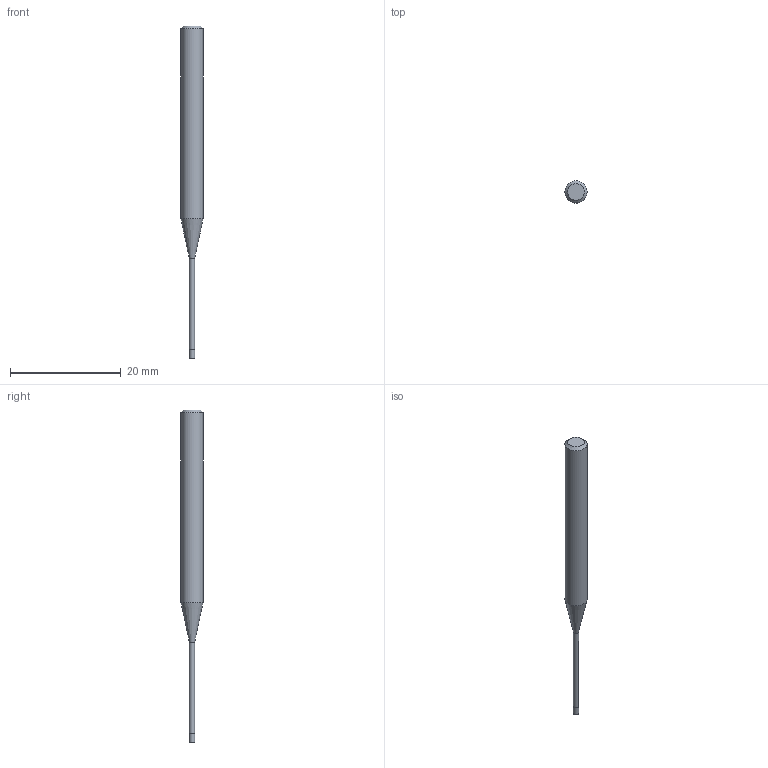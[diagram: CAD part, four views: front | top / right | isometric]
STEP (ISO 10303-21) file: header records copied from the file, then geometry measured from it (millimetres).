
FILE_DESCRIPTION((''),'2;1');
FILE_NAME('C:\Users\nsx150\AppData\Local\Temp\Mastercam 2021\17T8Q8S9EB\TEMP.step','2021-04-21T14:26:01',(''),(''),'STEP Write','Mastercam 2021 ... CNC Software, Inc.','');
FILE_SCHEMA(('AUTOMOTIVE_DESIGN'));
Length unit declared in the file: millimetre
Products named in the file (1): None
Bounding box: 4 x 4 x 60 mm (x, y, z)
Volume: 487.9 mm3; surface area: 559.5 mm2
Topology: 2 solids, 2 shells, 9 faces, 12 edges, 7 vertices
Faces by surface type: plane 4, cylinder 3, cone 2
Full cylindrical faces by diameter (mm): 0.95 x1, 1 x1, 4 x1
Entity records: 211 total; most frequent: DIRECTION 36, CARTESIAN_POINT 25, AXIS2_PLACEMENT_3D 18, ORIENTED_EDGE 14, EDGE_LOOP 14, STYLED_ITEM 12, ADVANCED_FACE 9, FACE_BOUND 8
